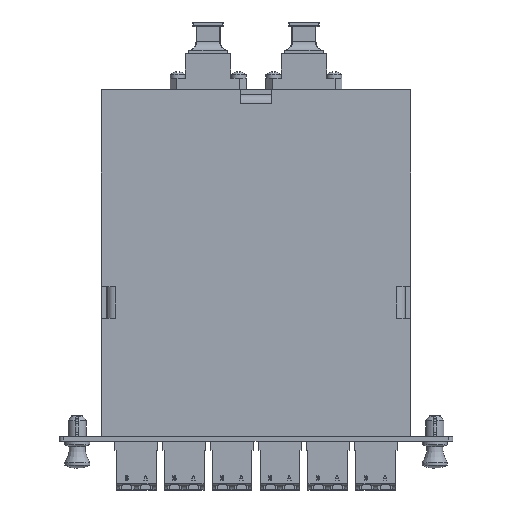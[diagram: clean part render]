
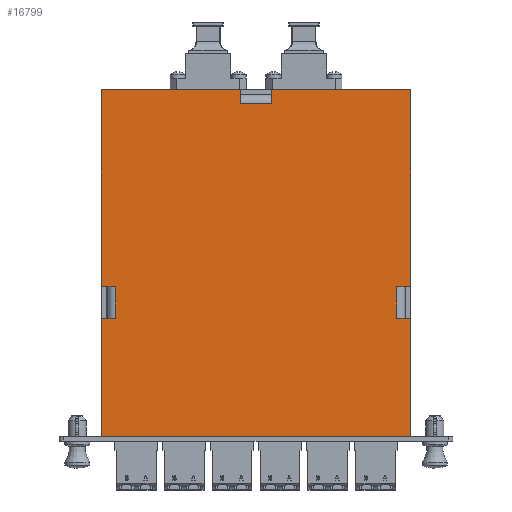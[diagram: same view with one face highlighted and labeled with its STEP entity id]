
A CAD part, top view. The second image highlights one B-rep face of the part: STEP entity #16799.
In plain terms, the highlighted planar face has unit normal (0, 0, 1).
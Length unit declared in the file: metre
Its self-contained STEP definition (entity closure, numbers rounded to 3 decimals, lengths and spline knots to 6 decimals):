
#5459=ORIENTED_EDGE('',*,*,#7865,.F.);
#5460=ORIENTED_EDGE('',*,*,#7862,.F.);
#5461=ORIENTED_EDGE('',*,*,#7831,.T.);
#5462=ORIENTED_EDGE('',*,*,#7880,.F.);
#5463=ORIENTED_EDGE('',*,*,#7861,.F.);
#5464=ORIENTED_EDGE('',*,*,#7856,.F.);
#5465=ORIENTED_EDGE('',*,*,#7853,.T.);
#5466=ORIENTED_EDGE('',*,*,#7850,.T.);
#5467=ORIENTED_EDGE('',*,*,#7881,.T.);
#5468=ORIENTED_EDGE('',*,*,#7837,.F.);
#5469=ORIENTED_EDGE('',*,*,#7847,.T.);
#5470=ORIENTED_EDGE('',*,*,#7844,.F.);
#5471=ORIENTED_EDGE('',*,*,#7841,.F.);
#5472=ORIENTED_EDGE('',*,*,#7835,.T.);
#5473=ORIENTED_EDGE('',*,*,#7882,.F.);
#5474=ORIENTED_EDGE('',*,*,#7870,.F.);
#7831=EDGE_CURVE('',#9413,#9412,#11231,.F.);
#7835=EDGE_CURVE('',#9417,#9416,#11234,.F.);
#7837=EDGE_CURVE('',#9418,#9419,#11236,.F.);
#7841=EDGE_CURVE('',#9417,#9422,#11239,.T.);
#7844=EDGE_CURVE('',#9422,#9424,#11242,.T.);
#7847=EDGE_CURVE('',#9418,#9424,#11245,.T.);
#7850=EDGE_CURVE('',#9428,#9426,#11247,.F.);
#7853=EDGE_CURVE('',#9430,#9428,#11250,.T.);
#7856=EDGE_CURVE('',#9430,#9432,#11253,.T.);
#7861=EDGE_CURVE('',#9432,#9435,#11257,.F.);
#7862=EDGE_CURVE('',#9413,#9436,#11258,.T.);
#7865=EDGE_CURVE('',#9436,#9438,#11261,.T.);
#7870=EDGE_CURVE('',#9438,#9441,#11265,.F.);
#7880=EDGE_CURVE('',#9435,#9412,#11275,.T.);
#7881=EDGE_CURVE('',#9426,#9419,#11276,.F.);
#7882=EDGE_CURVE('',#9441,#9416,#11277,.T.);
#9412=VERTEX_POINT('',#28662);
#9413=VERTEX_POINT('',#28664);
#9416=VERTEX_POINT('',#28671);
#9417=VERTEX_POINT('',#28673);
#9418=VERTEX_POINT('',#28677);
#9419=VERTEX_POINT('',#28678);
#9422=VERTEX_POINT('',#28686);
#9424=VERTEX_POINT('',#28692);
#9426=VERTEX_POINT('',#28701);
#9428=VERTEX_POINT('',#28704);
#9430=VERTEX_POINT('',#28710);
#9432=VERTEX_POINT('',#28716);
#9435=VERTEX_POINT('',#28723);
#9436=VERTEX_POINT('',#28728);
#9438=VERTEX_POINT('',#28734);
#9441=VERTEX_POINT('',#28741);
#11231=LINE('',#28663,#13054);
#11234=LINE('',#28672,#13057);
#11236=LINE('',#28676,#13059);
#11239=LINE('',#28685,#13062);
#11242=LINE('',#28691,#13065);
#11245=LINE('',#28697,#13068);
#11247=LINE('',#28703,#13070);
#11250=LINE('',#28709,#13073);
#11253=LINE('',#28715,#13076);
#11257=LINE('',#28725,#13080);
#11258=LINE('',#28727,#13081);
#11261=LINE('',#28733,#13084);
#11265=LINE('',#28743,#13088);
#11275=LINE('',#28761,#13098);
#11276=LINE('',#28762,#13099);
#11277=LINE('',#28763,#13100);
#13054=VECTOR('',#22682,1.);
#13057=VECTOR('',#22689,1.);
#13059=VECTOR('',#22693,1.);
#13062=VECTOR('',#22700,1.);
#13065=VECTOR('',#22705,1.);
#13068=VECTOR('',#22710,1.);
#13070=VECTOR('',#22716,1.);
#13073=VECTOR('',#22721,1.);
#13076=VECTOR('',#22726,1.);
#13080=VECTOR('',#22734,1.);
#13081=VECTOR('',#22737,1.);
#13084=VECTOR('',#22742,1.);
#13088=VECTOR('',#22750,1.);
#13098=VECTOR('',#22764,1.);
#13099=VECTOR('',#22765,1.);
#13100=VECTOR('',#22766,1.);
#14137=EDGE_LOOP('',(#5459,#5460,#5461,#5462,#5463,#5464,#5465,#5466,#5467,
#5468,#5469,#5470,#5471,#5472,#5473,#5474));
#15204=FACE_BOUND('',#14137,.T.);
#15916=PLANE('',#18497);
#16799=ADVANCED_FACE('',(#15204),#15916,.F.);
#18497=AXIS2_PLACEMENT_3D('',#28760,#22762,#22763);
#22682=DIRECTION('',(0.,1.,0.));
#22689=DIRECTION('',(1.,0.,0.));
#22693=DIRECTION('',(-1.,0.,0.));
#22700=DIRECTION('',(0.,-1.,0.));
#22705=DIRECTION('',(-1.,0.,0.));
#22710=DIRECTION('',(0.,-1.,0.));
#22716=DIRECTION('',(-1.,0.,0.));
#22721=DIRECTION('',(0.,-1.,0.));
#22726=DIRECTION('',(1.,0.,0.));
#22734=DIRECTION('',(0.,1.,0.));
#22737=DIRECTION('',(1.,0.,0.));
#22742=DIRECTION('',(0.,-1.,0.));
#22750=DIRECTION('',(1.,0.,0.));
#22762=DIRECTION('',(0.,0.,-1.));
#22763=DIRECTION('',(-1.,0.,0.));
#22764=DIRECTION('',(1.,0.,0.));
#22765=DIRECTION('',(0.,1.,0.));
#22766=DIRECTION('',(0.,-1.,0.));
#28662=CARTESIAN_POINT('',(0.00525,0.0534,0.0285));
#28663=CARTESIAN_POINT('',(0.00525,0.058002,0.0285));
#28664=CARTESIAN_POINT('',(0.00525,0.058,0.0285));
#28671=CARTESIAN_POINT('',(0.0464,-0.0175,0.0285));
#28672=CARTESIAN_POINT('',(0.002135,-0.0175,0.0285));
#28673=CARTESIAN_POINT('',(0.051,-0.0175,0.0285));
#28676=CARTESIAN_POINT('',(-0.051,-0.0175,0.0285));
#28677=CARTESIAN_POINT('',(-0.051,-0.0175,0.0285));
#28678=CARTESIAN_POINT('',(-0.0464,-0.0175,0.0285));
#28685=CARTESIAN_POINT('',(0.051,0.058002,0.0285));
#28686=CARTESIAN_POINT('',(0.051,-0.0565,0.0285));
#28691=CARTESIAN_POINT('',(0.002135,-0.0565,0.0285));
#28692=CARTESIAN_POINT('',(-0.051,-0.0565,0.0285));
#28697=CARTESIAN_POINT('',(-0.051,0.058002,0.0285));
#28701=CARTESIAN_POINT('',(-0.0464,-0.007,0.0285));
#28703=CARTESIAN_POINT('',(0.002135,-0.007,0.0285));
#28704=CARTESIAN_POINT('',(-0.051,-0.007,0.0285));
#28709=CARTESIAN_POINT('',(-0.051,0.058002,0.0285));
#28710=CARTESIAN_POINT('',(-0.051,0.058,0.0285));
#28715=CARTESIAN_POINT('',(0.002135,0.058,0.0285));
#28716=CARTESIAN_POINT('',(-0.00525,0.058,0.0285));
#28723=CARTESIAN_POINT('',(-0.00525,0.0534,0.0285));
#28725=CARTESIAN_POINT('',(-0.00525,0.058,0.0285));
#28727=CARTESIAN_POINT('',(0.002135,0.058,0.0285));
#28728=CARTESIAN_POINT('',(0.051,0.058,0.0285));
#28733=CARTESIAN_POINT('',(0.051,0.058002,0.0285));
#28734=CARTESIAN_POINT('',(0.051,-0.007,0.0285));
#28741=CARTESIAN_POINT('',(0.0464,-0.007,0.0285));
#28743=CARTESIAN_POINT('',(0.051,-0.007,0.0285));
#28760=CARTESIAN_POINT('',(0.002135,0.058002,0.0285));
#28761=CARTESIAN_POINT('',(0.002135,0.0534,0.0285));
#28762=CARTESIAN_POINT('',(-0.0464,0.058002,0.0285));
#28763=CARTESIAN_POINT('',(0.0464,0.058002,0.0285));
